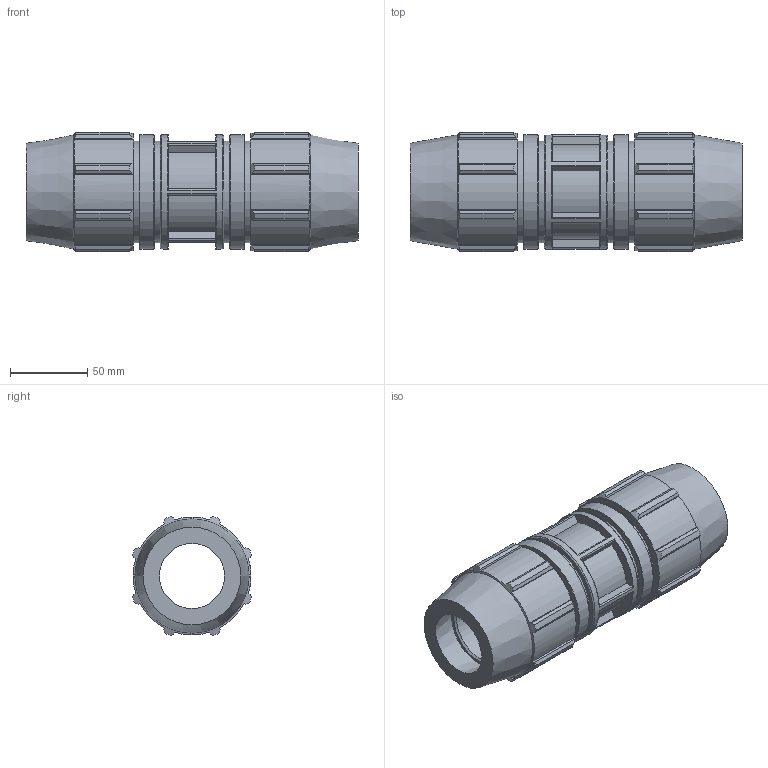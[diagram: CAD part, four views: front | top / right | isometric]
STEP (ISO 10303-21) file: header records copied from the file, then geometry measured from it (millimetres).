
FILE_DESCRIPTION(/* description */ ('PLASSON REPAIR COUPLER 1 1/4'''' - 1 1/4'''''),/* implementation_level */ '2;1');
FILE_NAME(/* name */ 'C:\Dropbox\KIMPROJECTS-Inventor 2019\99-16-3568-Processing Inch\ASTM Compression 2021\0761M\0761M0013.ipt.stp',/* time_stamp */ '2021-08-26T12:34:41+03:00',/* author */ ('KIM'),/* organization */ (''),/* preprocessor_version */ 'ST-DEVELOPER v17.2',/* originating_system */ 'Autodesk Inventor 2019',/* authorisation */ '');
FILE_SCHEMA (('AUTOMOTIVE_DESIGN { 1 0 10303 214 3 1 1 }'));
Length unit declared in the file: inch
Products named in the file (1): 0761M0013
Bounding box: 214.88 x 77.2 x 77.2 mm (x, y, z)
Volume: 559156.3 mm3; surface area: 96259.9 mm2
Topology: 1 solids, 1 shells, 200 faces, 572 edges, 390 vertices
Faces by surface type: plane 100, cylinder 58, cone 24, torus 18
Full cylindrical faces by diameter (mm): 42.1 x1, 65.634 x4, 73.838 x3
Entity records: 6791 total; most frequent: CARTESIAN_POINT 1507, ORIENTED_EDGE 1144, DIRECTION 1102, EDGE_CURVE 572, AXIS2_PLACEMENT_3D 417, VERTEX_POINT 390, LINE 268, VECTOR 268
